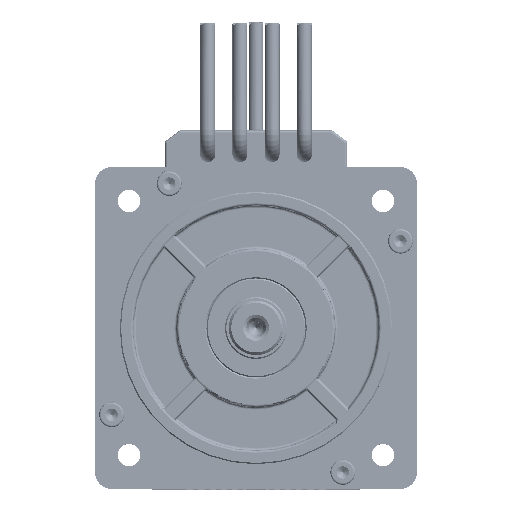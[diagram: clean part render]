
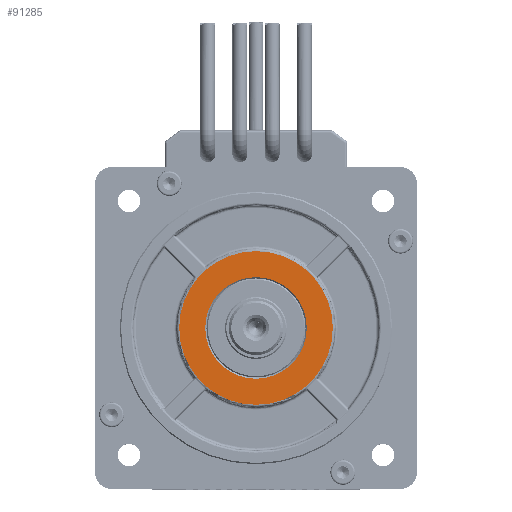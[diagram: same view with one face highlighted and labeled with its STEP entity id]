
A CAD part, top view. The second image highlights one B-rep face of the part: STEP entity #91285.
In plain terms, the highlighted planar face has unit normal (0, 0, 1).
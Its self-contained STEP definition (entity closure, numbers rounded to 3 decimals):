
#363 = EDGE_LOOP ( 'NONE', ( #30689, #66437 ) ) ;
#480 = CARTESIAN_POINT ( 'NONE',  ( 0., 31., 104. ) ) ;
#6954 = VERTEX_POINT ( 'NONE', #38674 ) ;
#9893 = CARTESIAN_POINT ( 'NONE',  ( 0., 0., 104. ) ) ;
#13373 = DIRECTION ( 'NONE',  ( 0., -1., 0. ) ) ;
#15477 = CIRCLE ( 'NONE', #53715, 31. ) ;
#15717 = CARTESIAN_POINT ( 'NONE',  ( 0., 0., 104. ) ) ;
#26947 = CARTESIAN_POINT ( 'NONE',  ( 0., -31., 104. ) ) ;
#27515 = EDGE_CURVE ( 'NONE', #83573, #121911, #15477, .T. ) ;
#30689 = ORIENTED_EDGE ( 'NONE', *, *, #39993, .T. ) ;
#37469 = EDGE_LOOP ( 'NONE', ( #41798, #92714 ) ) ;
#38674 = CARTESIAN_POINT ( 'NONE',  ( 0., -20.5, 104. ) ) ;
#39993 = EDGE_CURVE ( 'NONE', #121911, #83573, #62947, .T. ) ;
#41485 = CARTESIAN_POINT ( 'NONE',  ( 0., 0., 104. ) ) ;
#41798 = ORIENTED_EDGE ( 'NONE', *, *, #44389, .T. ) ;
#42918 = AXIS2_PLACEMENT_3D ( 'NONE', #15717, #57319, #127623 ) ;
#44389 = EDGE_CURVE ( 'NONE', #64470, #6954, #58961, .T. ) ;
#51291 = CARTESIAN_POINT ( 'NONE',  ( 0., 20.5, 104. ) ) ;
#53715 = AXIS2_PLACEMENT_3D ( 'NONE', #73455, #74332, #13373 ) ;
#57319 = DIRECTION ( 'NONE',  ( 0., 0., 1. ) ) ;
#58961 = CIRCLE ( 'NONE', #73661, 20.5 ) ;
#61191 = DIRECTION ( 'NONE',  ( 0., 0., -1. ) ) ;
#62947 = CIRCLE ( 'NONE', #42918, 31. ) ;
#64470 = VERTEX_POINT ( 'NONE', #51291 ) ;
#66437 = ORIENTED_EDGE ( 'NONE', *, *, #27515, .T. ) ;
#67204 = CIRCLE ( 'NONE', #68575, 20.5 ) ;
#68575 = AXIS2_PLACEMENT_3D ( 'NONE', #9893, #101173, #101608 ) ;
#68917 = CARTESIAN_POINT ( 'NONE',  ( 58.113, -58.113, 104. ) ) ;
#73052 = FACE_BOUND ( 'NONE', #37469, .T. ) ;
#73455 = CARTESIAN_POINT ( 'NONE',  ( 0., 0., 104. ) ) ;
#73661 = AXIS2_PLACEMENT_3D ( 'NONE', #41485, #61191, #91109 ) ;
#74332 = DIRECTION ( 'NONE',  ( 0., 0., 1. ) ) ;
#74804 = AXIS2_PLACEMENT_3D ( 'NONE', #68917, #79865, #79002 ) ;
#79002 = DIRECTION ( 'NONE',  ( 0., -1., 0. ) ) ;
#79865 = DIRECTION ( 'NONE',  ( 0., 0., -1. ) ) ;
#83573 = VERTEX_POINT ( 'NONE', #480 ) ;
#91109 = DIRECTION ( 'NONE',  ( 0., -1., 0. ) ) ;
#91285 = ADVANCED_FACE ( 'NONE', ( #102953, #73052 ), #119007, .F. ) ;
#92714 = ORIENTED_EDGE ( 'NONE', *, *, #110965, .T. ) ;
#101173 = DIRECTION ( 'NONE',  ( 0., 0., -1. ) ) ;
#101608 = DIRECTION ( 'NONE',  ( 0., -1., 0. ) ) ;
#102953 = FACE_OUTER_BOUND ( 'NONE', #363, .T. ) ;
#110965 = EDGE_CURVE ( 'NONE', #6954, #64470, #67204, .T. ) ;
#119007 = PLANE ( 'NONE',  #74804 ) ;
#121911 = VERTEX_POINT ( 'NONE', #26947 ) ;
#127623 = DIRECTION ( 'NONE',  ( 0., -1., 0. ) ) ;
